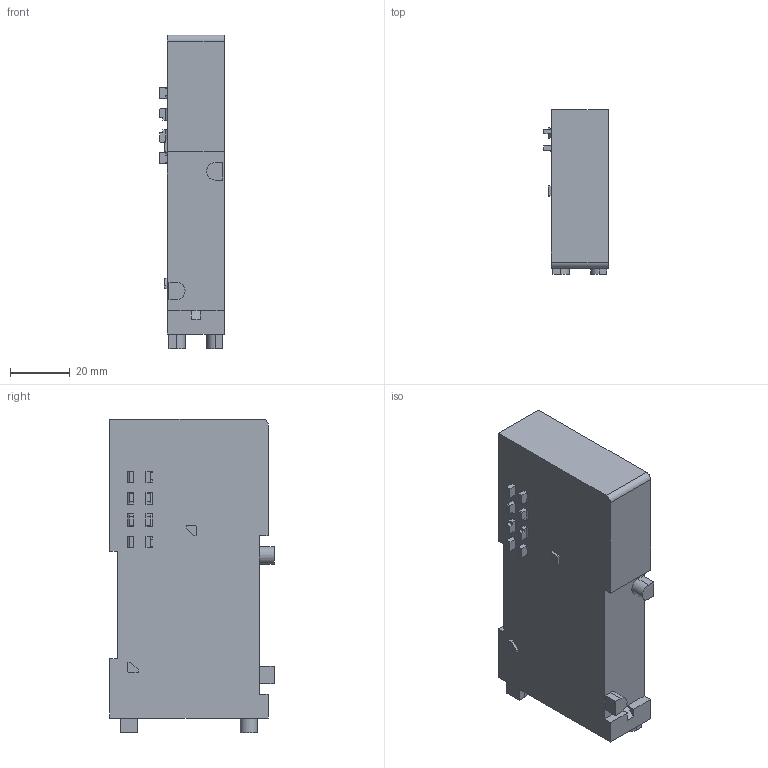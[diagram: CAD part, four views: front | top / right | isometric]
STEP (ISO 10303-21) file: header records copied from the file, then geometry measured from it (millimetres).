
FILE_DESCRIPTION( (''), '2;1');
FILE_NAME ('CVICAD02.5208.F15ZX-TK_21478.stp','2021-07-12T19:12:43',(''),(''),'spGate 12.6.6','','');
FILE_SCHEMA (('AUTOMOTIVE_DESIGN'));
Length unit declared in the file: millimetre
Bounding box: 21.6 x 55 x 105 mm (x, y, z)
Volume: 96434.5 mm3; surface area: 17105.2 mm2
Topology: 1 solids, 1 shells, 198 faces, 511 edges, 340 vertices
Faces by surface type: plane 175, cylinder 23
Entity records: 10101 total; most frequent: CARTESIAN_POINT 1049, ORIENTED_EDGE 1022, DIRECTION 953, COLOUR_RGB 710, PRESENTATION_STYLE_ASSIGNMENT 710, STYLED_ITEM 710, EDGE_CURVE 511, DRAUGHTING_PRE_DEFINED_CURVE_FONT 511
